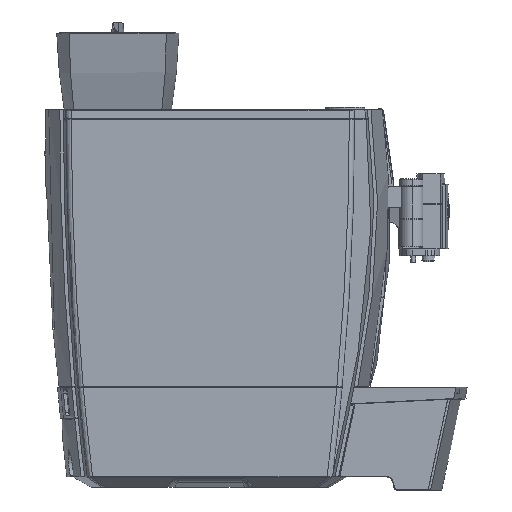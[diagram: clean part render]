
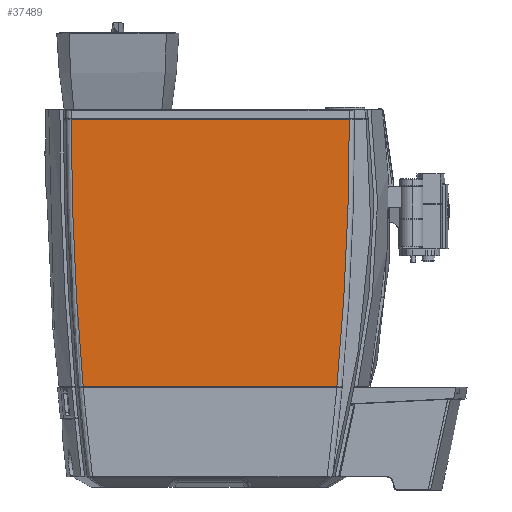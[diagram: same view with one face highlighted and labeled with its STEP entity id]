
A CAD part, left-side view. The second image highlights one B-rep face of the part: STEP entity #37489.
In plain terms, the highlighted planar face has unit normal (-1, 0, 0).
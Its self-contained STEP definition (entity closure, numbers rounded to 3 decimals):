
#5898 = ORIENTED_EDGE ( 'NONE', *, *, #63339, .F. ) ;
#6671 = DIRECTION ( 'NONE',  ( 1., 0., 0. ) ) ;
#9063 = VECTOR ( 'NONE', #55178, 1000. ) ;
#10282 = EDGE_CURVE ( 'NONE', #39024, #54847, #45548, .T. ) ;
#13626 = AXIS2_PLACEMENT_3D ( 'NONE', #60379, #22259, #66770 ) ;
#17106 = VERTEX_POINT ( 'NONE', #53038 ) ;
#19607 = CARTESIAN_POINT ( 'NONE',  ( -240., 361.58, 35.5 ) ) ;
#21590 = ORIENTED_EDGE ( 'NONE', *, *, #71118, .F. ) ;
#22044 = LINE ( 'NONE', #48765, #9063 ) ;
#22259 = DIRECTION ( 'NONE',  ( 1., 0., 0. ) ) ;
#25602 = CARTESIAN_POINT ( 'NONE',  ( -240., 64.222, 35.5 ) ) ;
#25662 = LINE ( 'NONE', #52286, #59506 ) ;
#29725 = EDGE_CURVE ( 'NONE', #54847, #17106, #22044, .T. ) ;
#32191 = AXIS2_PLACEMENT_3D ( 'NONE', #51883, #72112, #34033 ) ;
#33815 = VERTEX_POINT ( 'NONE', #25602 ) ;
#34033 = DIRECTION ( 'NONE',  ( 0., -1., 0. ) ) ;
#34922 = ORIENTED_EDGE ( 'NONE', *, *, #29725, .F. ) ;
#36585 = CARTESIAN_POINT ( 'NONE',  ( -240., 375.56, 349. ) ) ;
#37489 = ADVANCED_FACE ( 'NONE', ( #53286 ), #65758, .F. ) ;
#39024 = VERTEX_POINT ( 'NONE', #19607 ) ;
#44837 = CARTESIAN_POINT ( 'NONE',  ( -240., -3146.5, 349. ) ) ;
#45548 = CIRCLE ( 'NONE', #50696, 3522.06 ) ;
#48765 = CARTESIAN_POINT ( 'NONE',  ( -240., 381.76, 349. ) ) ;
#50696 = AXIS2_PLACEMENT_3D ( 'NONE', #44837, #6671, #51244 ) ;
#51244 = DIRECTION ( 'NONE',  ( 0., 0., -1. ) ) ;
#51883 = CARTESIAN_POINT ( 'NONE',  ( -240., -194.595, 1149. ) ) ;
#52286 = CARTESIAN_POINT ( 'NONE',  ( -240., -172.298, 35.5 ) ) ;
#52562 = DIRECTION ( 'NONE',  ( 0., 1., 0. ) ) ;
#53038 = CARTESIAN_POINT ( 'NONE',  ( -240., 49.633, 349. ) ) ;
#53286 = FACE_OUTER_BOUND ( 'NONE', #55293, .T. ) ;
#54847 = VERTEX_POINT ( 'NONE', #36585 ) ;
#55178 = DIRECTION ( 'NONE',  ( 0., -1., 0. ) ) ;
#55293 = EDGE_LOOP ( 'NONE', ( #5898, #21590, #34922, #77151 ) ) ;
#59506 = VECTOR ( 'NONE', #52562, 1000. ) ;
#60379 = CARTESIAN_POINT ( 'NONE',  ( -240., 3425.161, 349. ) ) ;
#63339 = EDGE_CURVE ( 'NONE', #33815, #39024, #25662, .T. ) ;
#65758 = PLANE ( 'NONE',  #32191 ) ;
#66770 = DIRECTION ( 'NONE',  ( 0., 0., -1. ) ) ;
#70113 = CIRCLE ( 'NONE', #13626, 3375.529 ) ;
#71118 = EDGE_CURVE ( 'NONE', #17106, #33815, #70113, .T. ) ;
#72112 = DIRECTION ( 'NONE',  ( 1., 0., 0. ) ) ;
#77151 = ORIENTED_EDGE ( 'NONE', *, *, #10282, .F. ) ;
